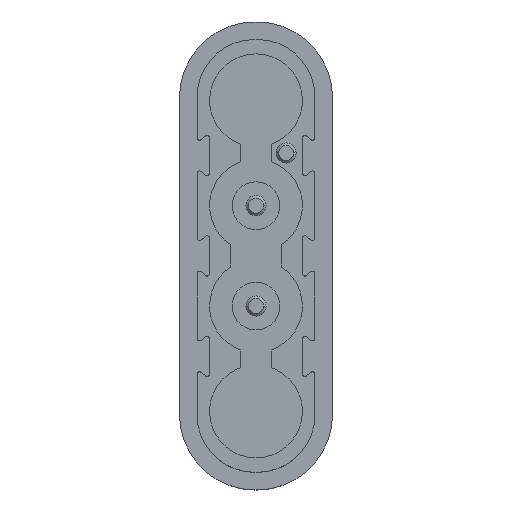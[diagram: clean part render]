
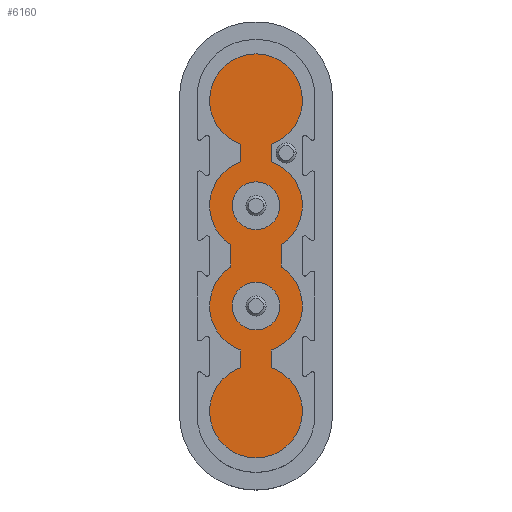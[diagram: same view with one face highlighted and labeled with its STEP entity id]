
A CAD part, top view. The second image highlights one B-rep face of the part: STEP entity #6160.
In plain terms, the highlighted planar face has unit normal (0, 0, 1) as drawn and (0, 0, -1) by its records, which use the part's own axes.
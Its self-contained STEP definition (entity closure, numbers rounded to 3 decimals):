
#5449=DIRECTION('',(0.,-1.,0.));
#5450=VECTOR('',#5449,0.7);
#5451=CARTESIAN_POINT('',(-0.6,4.45,0.));
#5452=LINE('',#5451,#5450);
#5453=CARTESIAN_POINT('',(0.,2.,0.));
#5454=DIRECTION('',(0.,0.,1.));
#5455=DIRECTION('',(-0.324,0.946,0.));
#5456=AXIS2_PLACEMENT_3D('',#5453,#5454,#5455);
#5458=CARTESIAN_POINT('',(0.,2.,0.));
#5459=DIRECTION('',(0.,0.,1.));
#5460=DIRECTION('',(-1.,0.,0.));
#5461=AXIS2_PLACEMENT_3D('',#5458,#5459,#5460);
#5463=CARTESIAN_POINT('',(0.,-2.,0.));
#5464=DIRECTION('',(0.,0.,1.));
#5465=DIRECTION('',(-0.541,0.841,0.));
#5466=AXIS2_PLACEMENT_3D('',#5463,#5464,#5465);
#5468=CARTESIAN_POINT('',(0.,-2.,0.));
#5469=DIRECTION('',(0.,0.,1.));
#5470=DIRECTION('',(-1.,0.,0.));
#5471=AXIS2_PLACEMENT_3D('',#5468,#5469,#5470);
#5473=DIRECTION('',(0.,-1.,0.));
#5474=VECTOR('',#5473,0.7);
#5475=CARTESIAN_POINT('',(-0.6,-3.75,0.));
#5476=LINE('',#5475,#5474);
#5477=CARTESIAN_POINT('',(0.,-6.2,0.));
#5478=DIRECTION('',(0.,0.,1.));
#5479=DIRECTION('',(-0.324,0.946,0.));
#5480=AXIS2_PLACEMENT_3D('',#5477,#5478,#5479);
#5482=CARTESIAN_POINT('',(0.,-6.2,0.));
#5483=DIRECTION('',(0.,0.,1.));
#5484=DIRECTION('',(-1.,0.,0.));
#5485=AXIS2_PLACEMENT_3D('',#5482,#5483,#5484);
#5487=CARTESIAN_POINT('',(0.,-6.2,0.));
#5488=DIRECTION('',(0.,0.,1.));
#5489=DIRECTION('',(1.,0.,0.));
#5490=AXIS2_PLACEMENT_3D('',#5487,#5488,#5489);
#5492=DIRECTION('',(0.,1.,0.));
#5493=VECTOR('',#5492,0.7);
#5494=CARTESIAN_POINT('',(0.6,-4.45,0.));
#5495=LINE('',#5494,#5493);
#5496=CARTESIAN_POINT('',(0.,-2.,0.));
#5497=DIRECTION('',(0.,0.,1.));
#5498=DIRECTION('',(0.324,-0.946,0.));
#5499=AXIS2_PLACEMENT_3D('',#5496,#5497,#5498);
#5501=CARTESIAN_POINT('',(0.,-2.,0.));
#5502=DIRECTION('',(0.,0.,1.));
#5503=DIRECTION('',(1.,0.,0.));
#5504=AXIS2_PLACEMENT_3D('',#5501,#5502,#5503);
#5506=DIRECTION('',(0.,1.,0.));
#5507=VECTOR('',#5506,0.887);
#5508=CARTESIAN_POINT('',(1.,-0.444,0.));
#5509=LINE('',#5508,#5507);
#5510=CARTESIAN_POINT('',(0.,2.,0.));
#5511=DIRECTION('',(0.,0.,1.));
#5512=DIRECTION('',(0.541,-0.841,0.));
#5513=AXIS2_PLACEMENT_3D('',#5510,#5511,#5512);
#5515=CARTESIAN_POINT('',(0.,2.,0.));
#5516=DIRECTION('',(0.,0.,1.));
#5517=DIRECTION('',(1.,0.,0.));
#5518=AXIS2_PLACEMENT_3D('',#5515,#5516,#5517);
#5520=DIRECTION('',(0.,1.,0.));
#5521=VECTOR('',#5520,0.7);
#5522=CARTESIAN_POINT('',(0.6,3.75,0.));
#5523=LINE('',#5522,#5521);
#5524=CARTESIAN_POINT('',(0.,6.2,0.));
#5525=DIRECTION('',(0.,0.,1.));
#5526=DIRECTION('',(0.324,-0.946,0.));
#5527=AXIS2_PLACEMENT_3D('',#5524,#5525,#5526);
#5529=CARTESIAN_POINT('',(0.,6.2,0.));
#5530=DIRECTION('',(0.,0.,1.));
#5531=DIRECTION('',(1.,0.,0.));
#5532=AXIS2_PLACEMENT_3D('',#5529,#5530,#5531);
#5534=CARTESIAN_POINT('',(0.,6.2,0.));
#5535=DIRECTION('',(0.,0.,1.));
#5536=DIRECTION('',(-1.,0.,0.));
#5537=AXIS2_PLACEMENT_3D('',#5534,#5535,#5536);
#5539=CARTESIAN_POINT('',(0.,2.,0.));
#5540=DIRECTION('',(0.,0.,-1.));
#5541=DIRECTION('',(-1.,0.,0.));
#5542=AXIS2_PLACEMENT_3D('',#5539,#5540,#5541);
#5544=CARTESIAN_POINT('',(0.,2.,0.));
#5545=DIRECTION('',(0.,0.,-1.));
#5546=DIRECTION('',(1.,0.,0.));
#5547=AXIS2_PLACEMENT_3D('',#5544,#5545,#5546);
#5549=CARTESIAN_POINT('',(0.,-2.,0.));
#5550=DIRECTION('',(0.,0.,-1.));
#5551=DIRECTION('',(-1.,0.,0.));
#5552=AXIS2_PLACEMENT_3D('',#5549,#5550,#5551);
#5554=CARTESIAN_POINT('',(0.,-2.,0.));
#5555=DIRECTION('',(0.,0.,-1.));
#5556=DIRECTION('',(1.,0.,0.));
#5557=AXIS2_PLACEMENT_3D('',#5554,#5555,#5556);
#5607=DIRECTION('',(0.,1.,0.));
#5608=VECTOR('',#5607,0.887);
#5609=CARTESIAN_POINT('',(-1.,-0.444,0.));
#5610=LINE('',#5609,#5608);
#5781=CARTESIAN_POINT('',(0.95,2.,0.));
#5782=VERTEX_POINT('',#5781);
#5783=CARTESIAN_POINT('',(-0.95,2.,0.));
#5784=VERTEX_POINT('',#5783);
#5821=CARTESIAN_POINT('',(-1.85,-2.,0.));
#5822=VERTEX_POINT('',#5821);
#5823=CARTESIAN_POINT('',(-1.,-0.444,0.));
#5824=VERTEX_POINT('',#5823);
#5825=CARTESIAN_POINT('',(1.85,-2.,0.));
#5826=VERTEX_POINT('',#5825);
#5827=CARTESIAN_POINT('',(0.6,-3.75,0.));
#5828=VERTEX_POINT('',#5827);
#5833=CARTESIAN_POINT('',(-0.6,-3.75,0.));
#5834=VERTEX_POINT('',#5833);
#5835=CARTESIAN_POINT('',(1.,-0.444,0.));
#5836=VERTEX_POINT('',#5835);
#5837=CARTESIAN_POINT('',(1.,0.444,0.));
#5838=VERTEX_POINT('',#5837);
#5839=CARTESIAN_POINT('',(-0.6,4.45,0.));
#5840=CARTESIAN_POINT('',(-0.6,3.75,0.));
#5841=VERTEX_POINT('',#5839);
#5842=VERTEX_POINT('',#5840);
#5843=CARTESIAN_POINT('',(-1.85,2.,0.));
#5844=VERTEX_POINT('',#5843);
#5845=CARTESIAN_POINT('',(-1.,0.444,0.));
#5846=VERTEX_POINT('',#5845);
#5847=CARTESIAN_POINT('',(-0.6,-4.45,0.));
#5848=VERTEX_POINT('',#5847);
#5849=CARTESIAN_POINT('',(-1.85,-6.2,0.));
#5850=VERTEX_POINT('',#5849);
#5851=CARTESIAN_POINT('',(1.85,-6.2,0.));
#5852=VERTEX_POINT('',#5851);
#5853=CARTESIAN_POINT('',(0.6,-4.45,0.));
#5854=VERTEX_POINT('',#5853);
#5855=CARTESIAN_POINT('',(1.85,2.,0.));
#5856=VERTEX_POINT('',#5855);
#5857=CARTESIAN_POINT('',(0.6,3.75,0.));
#5858=VERTEX_POINT('',#5857);
#5859=CARTESIAN_POINT('',(0.6,4.45,0.));
#5860=VERTEX_POINT('',#5859);
#5861=CARTESIAN_POINT('',(1.85,6.2,0.));
#5862=VERTEX_POINT('',#5861);
#5863=CARTESIAN_POINT('',(-1.85,6.2,0.));
#5864=VERTEX_POINT('',#5863);
#5865=CARTESIAN_POINT('',(-0.95,-2.,0.));
#5866=CARTESIAN_POINT('',(0.95,-2.,0.));
#5867=VERTEX_POINT('',#5865);
#5868=VERTEX_POINT('',#5866);
#6107=CARTESIAN_POINT('',(0.,-6.2,0.));
#6108=DIRECTION('',(0.,0.,1.));
#6109=DIRECTION('',(1.,0.,0.));
#6110=AXIS2_PLACEMENT_3D('',#6107,#6108,#6109);
#6111=PLANE('',#6110);
#6113=ORIENTED_EDGE('',*,*,#6112,.T.);
#6115=ORIENTED_EDGE('',*,*,#6114,.T.);
#6117=ORIENTED_EDGE('',*,*,#6116,.T.);
#6119=ORIENTED_EDGE('',*,*,#6118,.F.);
#6120=ORIENTED_EDGE('',*,*,#6049,.T.);
#6121=ORIENTED_EDGE('',*,*,#6072,.T.);
#6123=ORIENTED_EDGE('',*,*,#6122,.T.);
#6125=ORIENTED_EDGE('',*,*,#6124,.T.);
#6127=ORIENTED_EDGE('',*,*,#6126,.T.);
#6129=ORIENTED_EDGE('',*,*,#6128,.T.);
#6131=ORIENTED_EDGE('',*,*,#6130,.T.);
#6132=ORIENTED_EDGE('',*,*,#6064,.T.);
#6133=ORIENTED_EDGE('',*,*,#6087,.T.);
#6134=ORIENTED_EDGE('',*,*,#6098,.T.);
#6136=ORIENTED_EDGE('',*,*,#6135,.T.);
#6138=ORIENTED_EDGE('',*,*,#6137,.T.);
#6140=ORIENTED_EDGE('',*,*,#6139,.T.);
#6142=ORIENTED_EDGE('',*,*,#6141,.T.);
#6144=ORIENTED_EDGE('',*,*,#6143,.T.);
#6146=ORIENTED_EDGE('',*,*,#6145,.T.);
#6147=EDGE_LOOP('',(#6113,#6115,#6117,#6119,#6120,#6121,#6123,#6125,#6127,#6129,
#6131,#6132,#6133,#6134,#6136,#6138,#6140,#6142,#6144,#6146));
#6148=FACE_OUTER_BOUND('',#6147,.F.);
#6149=ORIENTED_EDGE('',*,*,#5914,.T.);
#6151=ORIENTED_EDGE('',*,*,#6150,.T.);
#6152=EDGE_LOOP('',(#6149,#6151));
#6153=FACE_BOUND('',#6152,.F.);
#6155=ORIENTED_EDGE('',*,*,#6154,.T.);
#6157=ORIENTED_EDGE('',*,*,#6156,.T.);
#6158=EDGE_LOOP('',(#6155,#6157));
#6159=FACE_BOUND('',#6158,.F.);
#6160=ADVANCED_FACE('',(#6148,#6153,#6159),#6111,.F.);
#5457=CIRCLE('',#5456,1.85);
#5462=CIRCLE('',#5461,1.85);
#5467=CIRCLE('',#5466,1.85);
#5472=CIRCLE('',#5471,1.85);
#5481=CIRCLE('',#5480,1.85);
#5486=CIRCLE('',#5485,1.85);
#5491=CIRCLE('',#5490,1.85);
#5500=CIRCLE('',#5499,1.85);
#5505=CIRCLE('',#5504,1.85);
#5514=CIRCLE('',#5513,1.85);
#5519=CIRCLE('',#5518,1.85);
#5528=CIRCLE('',#5527,1.85);
#5533=CIRCLE('',#5532,1.85);
#5538=CIRCLE('',#5537,1.85);
#5543=CIRCLE('',#5542,0.95);
#5548=CIRCLE('',#5547,0.95);
#5553=CIRCLE('',#5552,0.95);
#5558=CIRCLE('',#5557,0.95);
#5914=EDGE_CURVE('',#5784,#5782,#5543,.T.);
#6049=EDGE_CURVE('',#5824,#5822,#5467,.T.);
#6064=EDGE_CURVE('',#5828,#5826,#5500,.T.);
#6072=EDGE_CURVE('',#5822,#5834,#5472,.T.);
#6087=EDGE_CURVE('',#5826,#5836,#5505,.T.);
#6098=EDGE_CURVE('',#5836,#5838,#5509,.T.);
#6112=EDGE_CURVE('',#5841,#5842,#5452,.T.);
#6114=EDGE_CURVE('',#5842,#5844,#5457,.T.);
#6116=EDGE_CURVE('',#5844,#5846,#5462,.T.);
#6118=EDGE_CURVE('',#5824,#5846,#5610,.T.);
#6122=EDGE_CURVE('',#5834,#5848,#5476,.T.);
#6124=EDGE_CURVE('',#5848,#5850,#5481,.T.);
#6126=EDGE_CURVE('',#5850,#5852,#5486,.T.);
#6128=EDGE_CURVE('',#5852,#5854,#5491,.T.);
#6130=EDGE_CURVE('',#5854,#5828,#5495,.T.);
#6135=EDGE_CURVE('',#5838,#5856,#5514,.T.);
#6137=EDGE_CURVE('',#5856,#5858,#5519,.T.);
#6139=EDGE_CURVE('',#5858,#5860,#5523,.T.);
#6141=EDGE_CURVE('',#5860,#5862,#5528,.T.);
#6143=EDGE_CURVE('',#5862,#5864,#5533,.T.);
#6145=EDGE_CURVE('',#5864,#5841,#5538,.T.);
#6150=EDGE_CURVE('',#5782,#5784,#5548,.T.);
#6154=EDGE_CURVE('',#5867,#5868,#5553,.T.);
#6156=EDGE_CURVE('',#5868,#5867,#5558,.T.);
